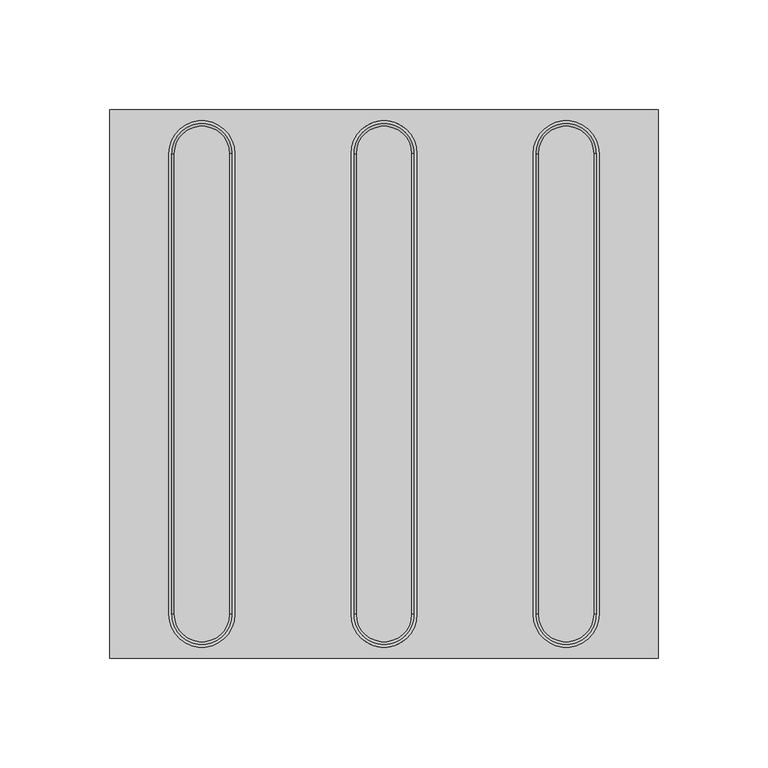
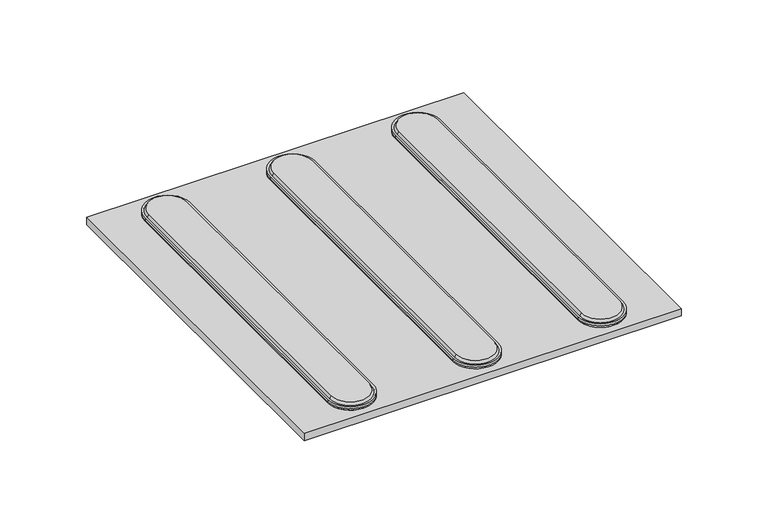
"""IFC4 building model written with IfcOpenShell, lengths in millimetres: proxy geometry, Sinalização tátil direcional - NBR 9050 : Sinalização tátil direcional - NBR 9050."""

from ifc_helpers import new_model, si_unit, point, frame, frame_2d, origin, origin_with_axes, place, context, project, spatial, polyline, circle_curve, trimmed, segment, composite_curve, outline, extrude, source, transform, mapped, element, save
from ifc_brep_helpers import plane_surface, revolved_surface, advanced_brep


def generic_models_4e4e8674(model_context):
    return source(origin(), model_context, "Body", "SolidModel", [
        advanced_brep(
        [(95.5, -105.0, 9.0), (95.5, 105.0, 9.0), (70.5, 105.0, 9.0), (70.5, -105.0, 9.0), (98.0, -105.0, 5.0), (68.0, -105.0, 5.0), (68.0, 105.0, 5.0), (98.0, 105.0, 5.0)],
        [
            (0, 1),
            (1, 2, circle_curve(frame((83.0, 105.0, 9.0), z_axis=(0.0, 0.0, 1.0), x_axis=(1.0, 0.0, 0.0)), 12.5)),
            (2, 3),
            (3, 0, circle_curve(frame((83.0, -105.0, 9.0), z_axis=(0.0, 0.0, 1.0), x_axis=(-1.0, 0.0, 0.0)), 12.5)),
            (4, 5, circle_curve(frame((83.0, -105.0, 5.0), z_axis=(0.0, 0.0, -1.0), x_axis=(-1.0, 0.0, 0.0)), 15.0)),
            (5, 6),
            (6, 7, circle_curve(frame((83.0, 105.0, 5.0), z_axis=(0.0, 0.0, -1.0), x_axis=(1.0, 0.0, 0.0)), 15.0)),
            (7, 4),
            (4, 0),
            (3, 5),
            (7, 1),
            (6, 2),
        ],
        [
            plane_surface(frame((83.0, 0.0, 9.0), z_axis=(0.0, 0.0, 1.0), x_axis=(0.0, 1.0, 0.0))),
            plane_surface(frame((83.0, 0.0, 5.0), z_axis=(0.0, 0.0, -1.0), x_axis=(0.0, 1.0, 0.0))),
            revolved_surface(polyline([(70.5, -105.0, 9.0), (68.0, -105.0, 5.0)]), (83.0, -105.0, 29.0), (0.0, 0.0, -1.0)),
            plane_surface(frame((98.0, 0.0, 5.0), z_axis=(0.8479983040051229, 0.0, 0.5299989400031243), x_axis=(0.0, 1.0, 0.0))),
            revolved_surface(polyline([(95.5, 105.0, 9.0), (98.0, 105.0, 5.0)]), (83.0, 105.0, 29.0), (0.0, 0.0, -1.0)),
            plane_surface(frame((68.0, 0.0, 5.0), z_axis=(-0.8479983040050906, 0.0, 0.5299989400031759), x_axis=(0.0, -1.0, 0.0))),
        ],
        [
            (0, [[1, 2, 3, 4]]),
            (1, [[5, 6, 7, 8]]),
            (2, [[-5, 9, -4, 10]]),
            (3, [[-8, 11, -1, -9]]),
            (4, [[-7, 12, -2, -11]]),
            (5, [[-6, -10, -3, -12]]),
        ],
    ),
        advanced_brep(
        [(12.5, -105.0, 9.0), (12.5, 105.0, 9.0), (-12.5, 105.0, 9.0), (-12.5, -105.0, 9.0), (15.0, -105.0, 5.0), (-15.0, -105.0, 5.0), (-15.0, 105.0, 5.0), (15.0, 105.0, 5.0)],
        [
            (0, 1),
            (1, 2, circle_curve(frame((0.0, 105.0, 9.0), z_axis=(0.0, 0.0, 1.0), x_axis=(1.0, 0.0, 0.0)), 12.5)),
            (2, 3),
            (3, 0, circle_curve(frame((0.0, -105.0, 9.0), z_axis=(0.0, 0.0, 1.0), x_axis=(-1.0, 0.0, 0.0)), 12.5)),
            (4, 5, circle_curve(frame((0.0, -105.0, 5.0), z_axis=(0.0, 0.0, -1.0), x_axis=(-1.0, 0.0, 0.0)), 15.0)),
            (5, 6),
            (6, 7, circle_curve(frame((0.0, 105.0, 5.0), z_axis=(0.0, 0.0, -1.0), x_axis=(1.0, 0.0, 0.0)), 15.0)),
            (7, 4),
            (4, 0),
            (3, 5),
            (7, 1),
            (6, 2),
        ],
        [
            plane_surface(frame((0.0, 0.0, 9.0), z_axis=(0.0, 0.0, 1.0), x_axis=(0.0, 1.0, 0.0))),
            plane_surface(frame((0.0, 0.0, 5.0), z_axis=(0.0, 0.0, -1.0), x_axis=(0.0, 1.0, 0.0))),
            revolved_surface(polyline([(-12.5, -105.0, 9.0), (-15.0, -105.0, 5.0)]), (0.0, -105.0, 29.0), (0.0, 0.0, -1.0)),
            plane_surface(frame((15.0, 0.0, 5.0), z_axis=(0.8479983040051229, 0.0, 0.5299989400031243), x_axis=(0.0, 1.0, 0.0))),
            revolved_surface(polyline([(12.5, 105.0, 9.0), (15.0, 105.0, 5.0)]), (0.0, 105.0, 29.0), (0.0, 0.0, -1.0)),
            plane_surface(frame((-15.0, 0.0, 5.0), z_axis=(-0.8479983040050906, 0.0, 0.5299989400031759), x_axis=(0.0, -1.0, 0.0))),
        ],
        [
            (0, [[1, 2, 3, 4]]),
            (1, [[5, 6, 7, 8]]),
            (2, [[-5, 9, -4, 10]]),
            (3, [[-8, 11, -1, -9]]),
            (4, [[-7, 12, -2, -11]]),
            (5, [[-6, -10, -3, -12]]),
        ],
    ),
        advanced_brep(
        [(-70.5, -105.0, 9.0), (-70.5, 105.0, 9.0), (-95.5, 105.0, 9.0), (-95.5, -105.0, 9.0), (-68.0, -105.0, 5.0), (-98.0, -105.0, 5.0), (-98.0, 105.0, 5.0), (-68.0, 105.0, 5.0)],
        [
            (0, 1),
            (1, 2, circle_curve(frame((-83.0, 105.0, 9.0), z_axis=(0.0, 0.0, 1.0), x_axis=(1.0, 0.0, 0.0)), 12.5)),
            (2, 3),
            (3, 0, circle_curve(frame((-83.0, -105.0, 9.0), z_axis=(0.0, 0.0, 1.0), x_axis=(-1.0, 0.0, 0.0)), 12.5)),
            (4, 5, circle_curve(frame((-83.0, -105.0, 5.0), z_axis=(0.0, 0.0, -1.0), x_axis=(-1.0, 0.0, 0.0)), 15.0)),
            (5, 6),
            (6, 7, circle_curve(frame((-83.0, 105.0, 5.0), z_axis=(0.0, 0.0, -1.0), x_axis=(1.0, 0.0, 0.0)), 15.0)),
            (7, 4),
            (4, 0),
            (3, 5),
            (7, 1),
            (6, 2),
        ],
        [
            plane_surface(frame((-83.0, 0.0, 9.0), z_axis=(0.0, 0.0, 1.0), x_axis=(0.0, 1.0, 0.0))),
            plane_surface(frame((-83.0, 0.0, 5.0), z_axis=(0.0, 0.0, -1.0), x_axis=(0.0, 1.0, 0.0))),
            revolved_surface(polyline([(-95.5, -105.0, 9.0), (-98.0, -105.0, 5.0)]), (-83.0, -105.0, 29.0), (0.0, 0.0, -1.0)),
            plane_surface(frame((-68.0, 0.0, 5.0), z_axis=(0.8479983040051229, 0.0, 0.5299989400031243), x_axis=(0.0, 1.0, 0.0))),
            revolved_surface(polyline([(-70.5, 105.0, 9.0), (-68.0, 105.0, 5.0)]), (-83.0, 105.0, 29.0), (0.0, 0.0, -1.0)),
            plane_surface(frame((-98.0, 0.0, 5.0), z_axis=(-0.8479983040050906, 0.0, 0.5299989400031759), x_axis=(0.0, -1.0, 0.0))),
        ],
        [
            (0, [[1, 2, 3, 4]]),
            (1, [[5, 6, 7, 8]]),
            (2, [[-5, 9, -4, 10]]),
            (3, [[-8, 11, -1, -9]]),
            (4, [[-7, 12, -2, -11]]),
            (5, [[-6, -10, -3, -12]]),
        ],
    ),
        extrude(outline(composite_curve([segment(polyline([(98.0, 105.0), (98.0, -105.0)]), True, "CONTINUOUS"), segment(trimmed(circle_curve(frame_2d((83.0, -105.0)), 15.0), [point((98.0, -105.0))], [point((68.0, -105.0))], False, "CARTESIAN"), True, "CONTINUOUS"), segment(polyline([(68.0, -105.0), (68.0, 105.0)]), True, "CONTINUOUS"), segment(trimmed(circle_curve(frame_2d((83.0, 105.0)), 15.0), [point((68.0, 105.0))], [point((98.0, 105.0))], False, "CARTESIAN"), True, "CONTINUOUS")], self_intersect=False)), frame((0.0, 0.0, 5.0), z_axis=(0.0, 0.0, 1.0), x_axis=(1.0, 0.0, 0.0)), (0.0, 0.0, 1.0), 2.5),
        extrude(outline(composite_curve([segment(polyline([(15.0, 105.0), (15.0, -105.0)]), True, "CONTINUOUS"), segment(trimmed(circle_curve(frame_2d((0.0, -105.0)), 15.0), [point((15.0, -105.0))], [point((-15.0, -105.0))], False, "CARTESIAN"), True, "CONTINUOUS"), segment(polyline([(-15.0, -105.0), (-15.0, 105.0)]), True, "CONTINUOUS"), segment(trimmed(circle_curve(frame_2d((0.0, 105.0)), 15.0), [point((-15.0, 105.0))], [point((15.0, 105.0))], False, "CARTESIAN"), True, "CONTINUOUS")], self_intersect=False)), frame((0.0, 0.0, 5.0), z_axis=(0.0, 0.0, 1.0), x_axis=(1.0, 0.0, 0.0)), (0.0, 0.0, 1.0), 2.5),
        extrude(outline(composite_curve([segment(polyline([(-68.0, 105.0), (-68.0, -105.0)]), True, "CONTINUOUS"), segment(trimmed(circle_curve(frame_2d((-83.0, -105.0)), 15.0), [point((-68.0, -105.0))], [point((-98.0, -105.0))], False, "CARTESIAN"), True, "CONTINUOUS"), segment(polyline([(-98.0, -105.0), (-98.0, 105.0)]), True, "CONTINUOUS"), segment(trimmed(circle_curve(frame_2d((-83.0, 105.0)), 15.0), [point((-98.0, 105.0))], [point((-68.0, 105.0))], False, "CARTESIAN"), True, "CONTINUOUS")], self_intersect=False)), frame((0.0, 0.0, 5.0), z_axis=(0.0, 0.0, 1.0), x_axis=(1.0, 0.0, 0.0)), (0.0, 0.0, 1.0), 2.5),
        extrude(outline(polyline([(125.0, 125.0), (125.0, -125.0), (-125.0, -125.0), (-125.0, 125.0), (125.0, 125.0)])), origin_with_axes(), (0.0, 0.0, 1.0), 5.0),
    ])


if __name__ == "__main__":
    model = new_model("IFC4")
    model_context = context("Model", 3, world=origin())
    ifc_project = project(units=[si_unit("LENGTHUNIT", "METRE", prefix="MILLI")], contexts=[model_context])
    site = spatial("IfcSite", under=ifc_project)
    building = spatial("IfcBuilding", under=site)
    placement = place(None, origin())
    generic_models_shape = generic_models_4e4e8674(model_context)
    element("IfcBuildingElementProxy", 1, Name="Sinalização tátil direcional - NBR 9050 : Sinalização tátil direcional - NBR 9050", ObjectType="Sinalização tátil direcional - NBR 9050 : Sinalização tátil direcional - NBR 9050", at=placement, inside=building, context=model_context, shape_type="MappedRepresentation", body=[
        mapped(generic_models_shape, transform((0.0, 0.0, 0.0), x_axis=(1.0, 0.0, 0.0), y_axis=(0.0, 1.0, 0.0), z_axis=(0.0, 0.0, 1.0))),
    ])
    save(model, "model.ifc")
